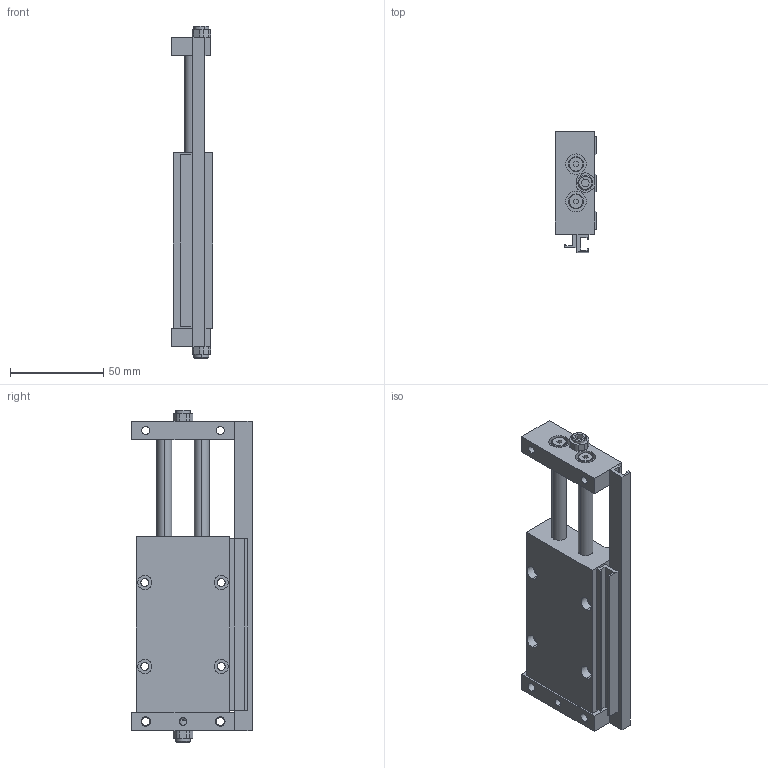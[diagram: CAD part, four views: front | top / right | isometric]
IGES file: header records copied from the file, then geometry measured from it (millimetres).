
Global section: file name: No Iges File Name specified; native system: Autodesk Inventor 2011; preprocessor: AutoDesk Inventor Iges Exporter R2011; author: nozzaem1; date: 20110516.134101; units: millimetre
Bounding box: 22 x 64.6 x 178 mm (x, y, z)
Volume: 129604.9 mm3; surface area: 51401.1 mm2
Topology: 8 solids, 8 shells, 295 faces, 686 edges, 447 vertices
Faces by surface type: plane 122, bspline 95, cylinder 38, revolution 20, cone 20
